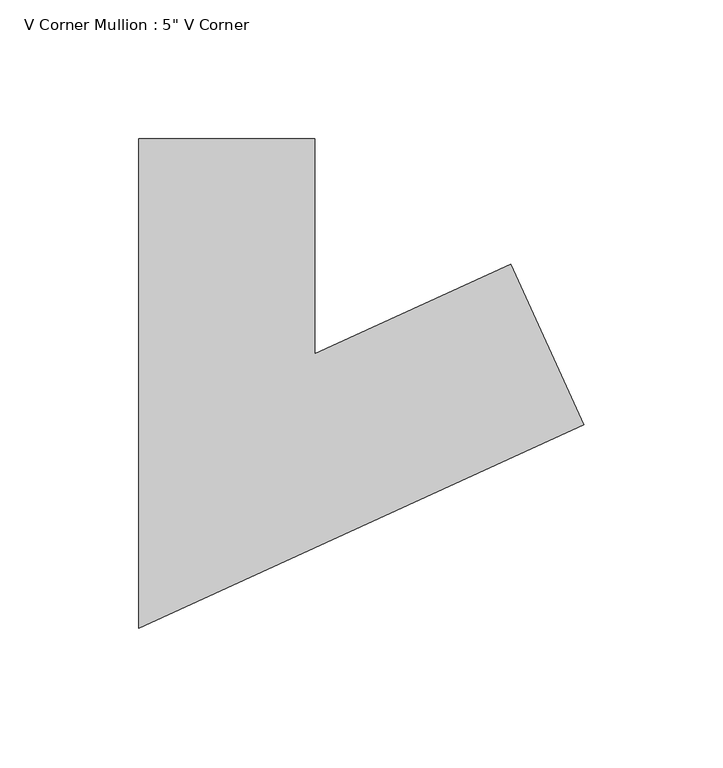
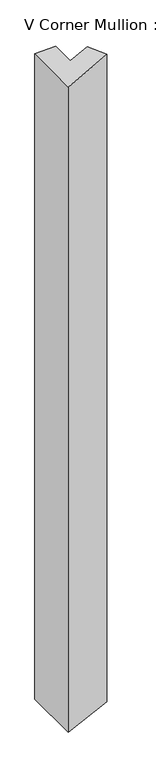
"""IFC4 building model written with IfcOpenShell, lengths in millimetres: member geometry."""

from ifc_helpers import new_model, si_unit, origin, place, context, project, spatial, faceted_brep, source, transform, mapped, element, save


def member_fd3aaf6b(model_context):
    return source(origin(), model_context, "Body", "Brep", [
        faceted_brep([(61.49523, 18.2208415, 2.0823161), (87.9205542, -39.5195451, 2.9771153), (87.9205542, -39.5195451, -2088.6854713), (61.49523, 18.2208415, -2088.3091324), (-9.0228811, -14.0523047, -0.3055276), (-9.0228811, -14.0523047, -2087.3048417), (-9.0228811, 63.5, -0.3055276), (-9.0228811, 63.5, -2087.3048417), (-72.5228811, 63.5, -2.4557281), (-72.5228811, 63.5, -2086.4005002), (-72.5228811, -112.9476953, -2.4557281), (-72.5228811, -112.9476953, -2086.4005002)], [[[0, 1, 2, 3]], [[4, 0, 3, 5]], [[6, 4, 5, 7]], [[8, 6, 7, 9]], [[10, 8, 9, 11]], [[1, 10, 11, 2]], [[1, 0, 4, 6, 8, 10]], [[2, 11, 9, 7, 5, 3]]]),
    ])


if __name__ == "__main__":
    model = new_model("IFC4")
    model_context = context("Model", 3, world=origin())
    ifc_project = project(units=[si_unit("LENGTHUNIT", "METRE", prefix="MILLI")], contexts=[model_context])
    site = spatial("IfcSite", under=ifc_project)
    building = spatial("IfcBuilding", under=site)
    placement = place(None, origin())
    member_shape = member_fd3aaf6b(model_context)
    element("IfcMember", 1, ObjectType="V Corner Mullion : 5\" V Corner", at=placement, inside=building, context=model_context, shape_type="MappedRepresentation", body=[
        mapped(member_shape, transform((0.0, 0.0, 0.0), x_axis=(1.0, 0.0, 0.0), y_axis=(0.0, 1.0, 0.0), z_axis=(0.0, 0.0, 1.0))),
    ])
    save(model, "model.ifc")
